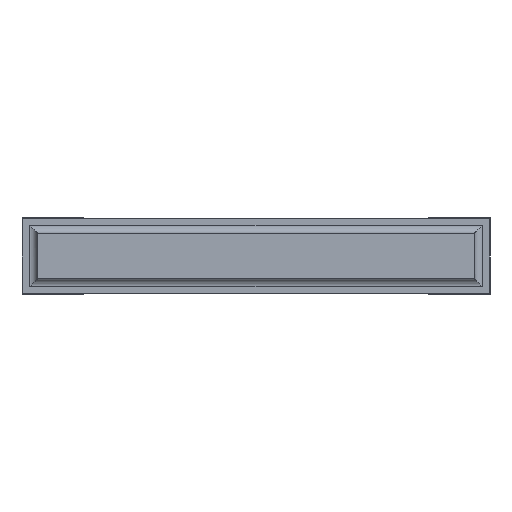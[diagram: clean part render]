
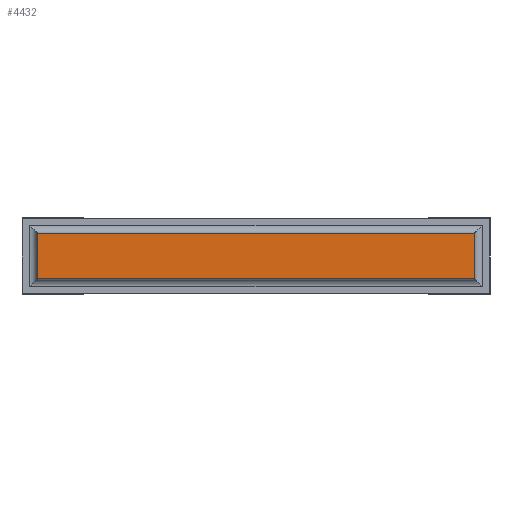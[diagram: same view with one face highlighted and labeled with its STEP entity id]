
A CAD part, front view. The second image highlights one B-rep face of the part: STEP entity #4432.
In plain terms, the highlighted planar face has unit normal (0, -1, 0).
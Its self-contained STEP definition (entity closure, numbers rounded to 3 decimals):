
#77=PLANE('',#4747);
#358=FACE_OUTER_BOUND('',#604,.T.);
#604=EDGE_LOOP('',(#3361,#3362,#3363,#3364));
#925=LINE('',#6588,#1487);
#931=LINE('',#6604,#1493);
#940=LINE('',#6621,#1502);
#941=LINE('',#6623,#1503);
#1487=VECTOR('',#5348,10.);
#1493=VECTOR('',#5362,10.);
#1502=VECTOR('',#5379,10.);
#1503=VECTOR('',#5382,10.);
#2047=VERTEX_POINT('',#6585);
#2048=VERTEX_POINT('',#6587);
#2053=VERTEX_POINT('',#6600);
#2054=VERTEX_POINT('',#6602);
#2543=EDGE_CURVE('',#2048,#2047,#925,.T.);
#2551=EDGE_CURVE('',#2054,#2053,#931,.T.);
#2560=EDGE_CURVE('',#2048,#2054,#940,.T.);
#2561=EDGE_CURVE('',#2053,#2047,#941,.T.);
#3361=ORIENTED_EDGE('',*,*,#2560,.F.);
#3362=ORIENTED_EDGE('',*,*,#2543,.T.);
#3363=ORIENTED_EDGE('',*,*,#2561,.F.);
#3364=ORIENTED_EDGE('',*,*,#2551,.F.);
#4432=ADVANCED_FACE('',(#358),#77,.T.);
#4747=AXIS2_PLACEMENT_3D('',#6622,#5380,#5381);
#5348=DIRECTION('',(0.,0.,-1.));
#5362=DIRECTION('',(0.,0.,-1.));
#5379=DIRECTION('',(1.,0.,0.));
#5380=DIRECTION('center_axis',(0.,-1.,0.));
#5381=DIRECTION('ref_axis',(0.,0.,-1.));
#5382=DIRECTION('',(-1.,0.,0.));
#6585=CARTESIAN_POINT('',(0.1,0.,0.1));
#6587=CARTESIAN_POINT('',(0.1,0.,0.4));
#6588=CARTESIAN_POINT('',(0.1,0.,0.4));
#6600=CARTESIAN_POINT('',(2.96,0.,0.1));
#6602=CARTESIAN_POINT('',(2.96,0.,0.4));
#6604=CARTESIAN_POINT('',(2.96,0.,0.4));
#6621=CARTESIAN_POINT('',(0.1,0.,0.4));
#6622=CARTESIAN_POINT('Origin',(2.96,0.,0.25));
#6623=CARTESIAN_POINT('',(2.96,0.,0.1));
